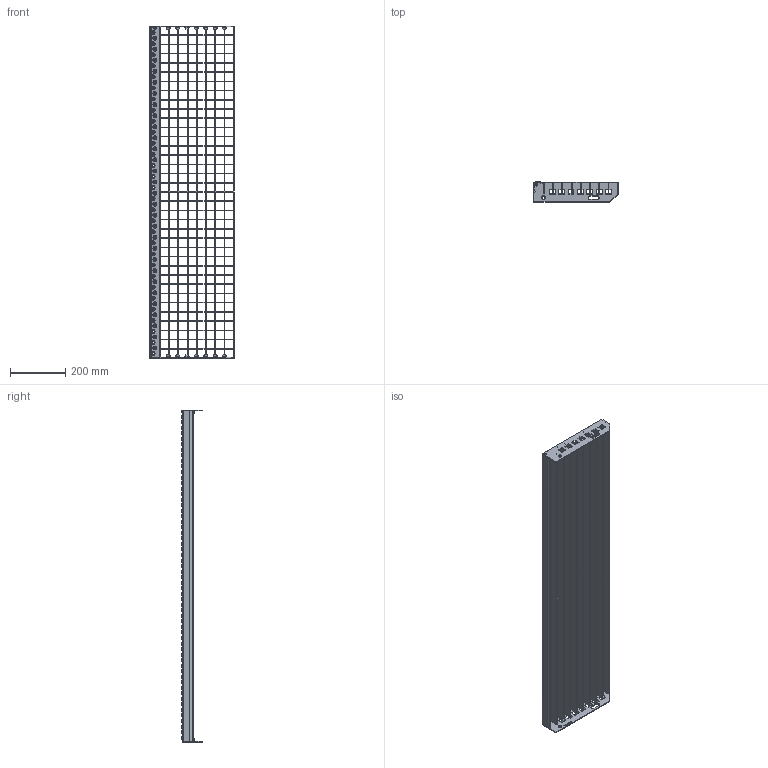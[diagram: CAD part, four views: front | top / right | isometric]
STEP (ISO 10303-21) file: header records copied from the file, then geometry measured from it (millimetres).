
FILE_DESCRIPTION(/* description */ ('','CAx-IF Rec.Pracs.---Representation and Presentation of Product Manufacturing Information (PMI)---3.8---2014-02-18'),/* implementation_level */ '2;1');
FILE_NAME(/* name */ 'C:\Users\phaverkotte\Desktop\Lager STEP\P-Stufen\P 340-33-3\P 340-33-3 1200mm x 305mm.stp',/* time_stamp */ '2018-03-24T10:25:46+01:00',/* author */ ('phaverkotte'),/* organization */ (''),/* preprocessor_version */ 'ST-DEVELOPER v16.13',/* originating_system */ 'Autodesk Inventor 2018',/* authorisation */ '');
FILE_SCHEMA (('AP242_MANAGED_MODEL_BASED_3D_ENGINEERING_MIM_LF { 1 0 10303 442 1 1 4 }'));
Length unit declared in the file: millimetre
Products named in the file (8): Schodišťový stupeň přím
ý lisovaný; Seitenplatte ausgeklinkt links; Seitenplatte 240 ausgeklinkt extern rechts; Schod nášlap; P Rošt schodu; Querstab; P Nosný pás; Hinteres Flach
Assembly tree (48 placements, depth 3):
  Schodišťový stupeň přím
ý lisovaný
    Seitenplatte ausgeklinkt links
    Seitenplatte 240 ausgeklinkt extern rechts
    Schod nášlap
    P Rošt schodu
      Querstab  x35
      P Nosný pás  x8
      Hinteres Flach
Bounding box: 304.64 x 72.75 x 1200 mm (x, y, z)
Volume: 1724294.2 mm3; surface area: 1388103.7 mm2
Topology: 47 solids, 47 shells, 2138 faces, 5939 edges, 3912 vertices
Faces by surface type: plane 1718, cone 180, cylinder 152, torus 60, bspline 28
Full cylindrical faces by diameter (mm): 8 x2, 13 x2
Entity records: 32333 total; most frequent: CARTESIAN_POINT 9569, DIRECTION 4572, ORIENTED_EDGE 4296, EDGE_CURVE 2148, AXIS2_PLACEMENT_3D 1546, VERTEX_POINT 1505, LINE 1480, VECTOR 1480
